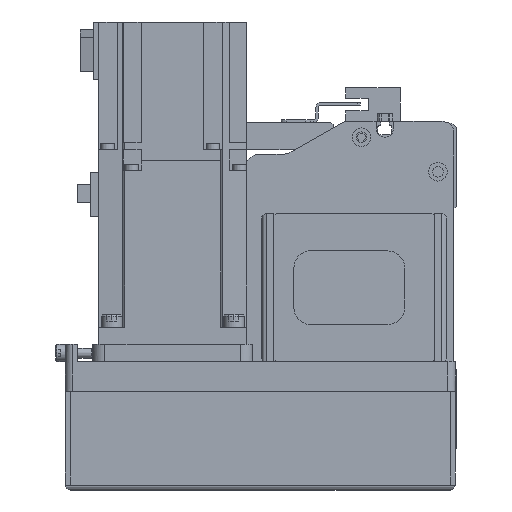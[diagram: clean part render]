
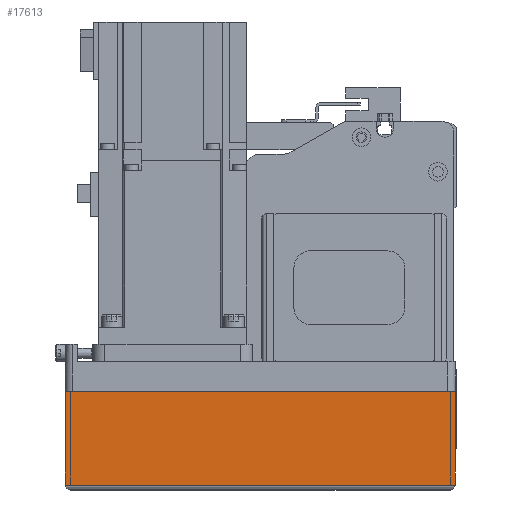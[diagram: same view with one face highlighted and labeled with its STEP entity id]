
A CAD part, left-side view. The second image highlights one B-rep face of the part: STEP entity #17613.
In plain terms, the highlighted planar face has unit normal (-1, 0, 0) as drawn and (0, -1, 0) by its records, which use the part's own axes.
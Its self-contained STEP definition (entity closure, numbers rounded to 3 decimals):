
#2754=ORIENTED_EDGE('',*,*,#7069,.F.);
#2755=ORIENTED_EDGE('',*,*,#7051,.F.);
#2756=ORIENTED_EDGE('',*,*,#7086,.T.);
#2757=ORIENTED_EDGE('',*,*,#7141,.T.);
#7051=EDGE_CURVE('',#9399,#9400,#11197,.T.);
#7069=EDGE_CURVE('',#9400,#9416,#11215,.T.);
#7086=EDGE_CURVE('',#9399,#9426,#11228,.T.);
#7141=EDGE_CURVE('',#9426,#9416,#11256,.T.);
#9399=VERTEX_POINT('',#27014);
#9400=VERTEX_POINT('',#27015);
#9416=VERTEX_POINT('',#27052);
#9426=VERTEX_POINT('',#27082);
#11197=LINE('',#27013,#12827);
#11215=LINE('',#27051,#12845);
#11228=LINE('',#27083,#12858);
#11256=LINE('',#27181,#12886);
#12827=VECTOR('',#21623,1000.);
#12845=VECTOR('',#21647,1000.);
#12858=VECTOR('',#21676,1000.);
#12886=VECTOR('',#21804,1000.);
#14345=EDGE_LOOP('',(#2754,#2755,#2756,#2757));
#15695=FACE_BOUND('',#14345,.T.);
#16872=PLANE('',#18898);
#17613=ADVANCED_FACE('',(#15695),#16872,.T.);
#18898=AXIS2_PLACEMENT_3D('',#27182,#21805,#21806);
#21623=DIRECTION('',(1.,0.,0.));
#21647=DIRECTION('',(0.,0.,-1.));
#21676=DIRECTION('',(0.,0.,-1.));
#21804=DIRECTION('',(1.,0.,0.));
#21805=DIRECTION('',(0.,-1.,0.));
#21806=DIRECTION('',(0.,0.,-1.));
#27013=CARTESIAN_POINT('',(-158.,-39.,-12.1));
#27014=CARTESIAN_POINT('',(-158.,-39.,-12.1));
#27015=CARTESIAN_POINT('',(0.,-39.,-12.1));
#27051=CARTESIAN_POINT('',(0.,-39.,-12.1));
#27052=CARTESIAN_POINT('',(0.,-39.,-50.));
#27082=CARTESIAN_POINT('',(-158.,-39.,-50.));
#27083=CARTESIAN_POINT('',(-158.,-39.,-12.1));
#27181=CARTESIAN_POINT('',(-158.,-39.,-50.));
#27182=CARTESIAN_POINT('',(-158.,-39.,-12.1));
